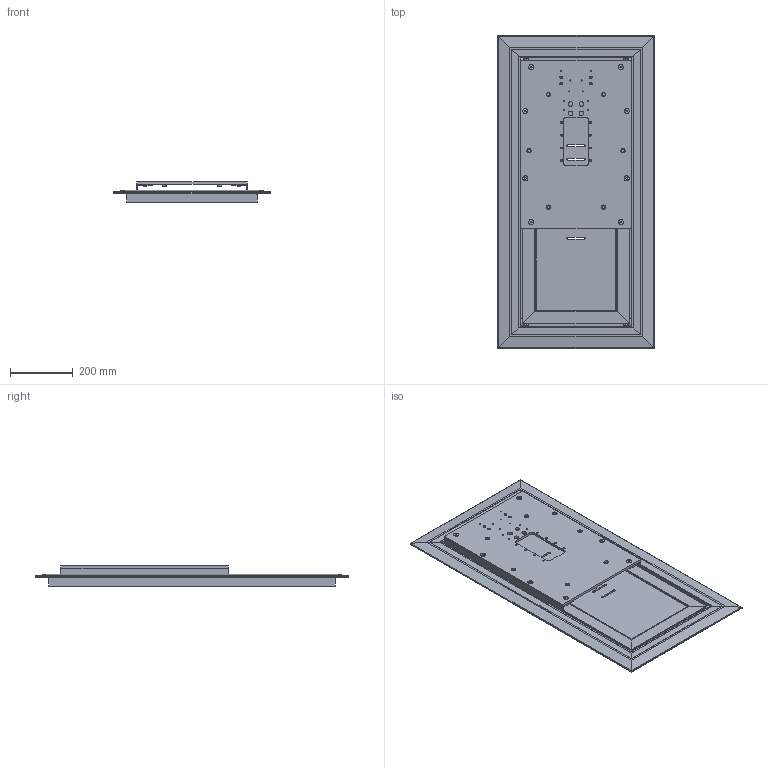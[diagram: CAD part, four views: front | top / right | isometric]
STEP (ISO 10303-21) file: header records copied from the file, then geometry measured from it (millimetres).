
FILE_DESCRIPTION (( 'STEP AP214' ), '1' );
FILE_NAME ('Alutech 3550-W_01.0_Simple_STEP.STEP', '2020-10-20T10:36:32', ( '' ), ( '' ), 'SwSTEP 2.0', 'SolidWorks 2020', '' );
FILE_SCHEMA (( 'AUTOMOTIVE_DESIGN' ));
Length unit declared in the file: millimetre
Products named in the file (1): Alutech 3550-W_01.0_Simple_STEP
Bounding box: 500 x 1000 x 65 mm (x, y, z)
Surface area: 1931318.7 mm2 (no closed solid volume)
Topology: 0 solids, 131 shells, 657 faces, 2593 edges, 2041 vertices
Faces by surface type: plane 333, cylinder 254, torus 58, cone 12
Entity records: 34892 total; most frequent: CARTESIAN_POINT 5498, DIRECTION 4855, ORIENTED_EDGE 3641, EDGE_CURVE 2589, VERTEX_POINT 2041, AXIS2_PLACEMENT_3D 1678, LINE 1499, VECTOR 1499
